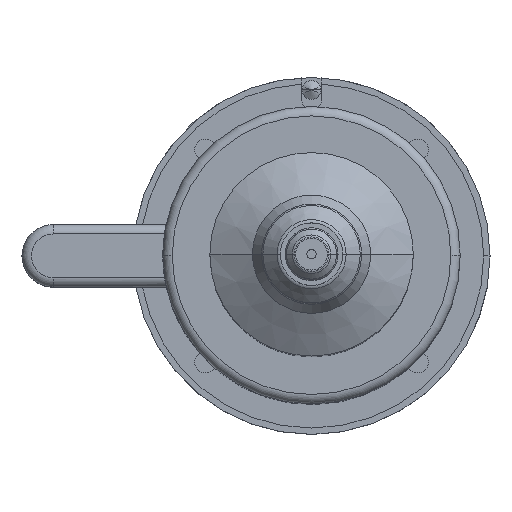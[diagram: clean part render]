
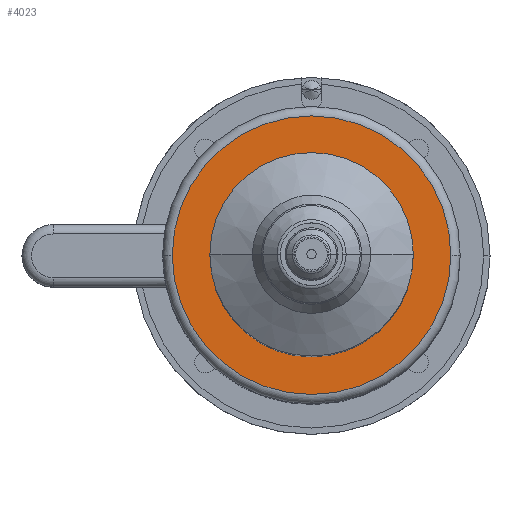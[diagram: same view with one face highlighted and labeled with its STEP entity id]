
A CAD part, top view. The second image highlights one B-rep face of the part: STEP entity #4023.
In plain terms, the highlighted planar face has unit normal (0, 0, 1).
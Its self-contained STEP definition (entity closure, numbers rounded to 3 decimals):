
#882 = FACE_BOUND ( 'NONE', #13757, .T. ) ;
#890 = FACE_OUTER_BOUND ( 'NONE', #13756, .T. ) ;
#1265 = VERTEX_POINT ( 'NONE', #14969 ) ;
#1373 = VERTEX_POINT ( 'NONE', #14647 ) ;
#1464 = VERTEX_POINT ( 'NONE', #14400 ) ;
#1467 = VERTEX_POINT ( 'NONE', #15019 ) ;
#2129 = AXIS2_PLACEMENT_3D ( 'NONE', #12780, #12775, #12774 ) ;
#2130 = AXIS2_PLACEMENT_3D ( 'NONE', #12753, #12749, #12745 ) ;
#2140 = AXIS2_PLACEMENT_3D ( 'NONE', #13043, #13042, #13040 ) ;
#2797 = AXIS2_PLACEMENT_3D ( 'NONE', #11184, #11163, #11144 ) ;
#3758 = EDGE_CURVE ( 'NONE', #1467, #1265, #18644, .T. ) ;
#3761 = EDGE_CURVE ( 'NONE', #1265, #1467, #18629, .T. ) ;
#3781 = EDGE_CURVE ( 'NONE', #1373, #1464, #18529, .T. ) ;
#4023 = ADVANCED_FACE ( 'NONE', ( #890, #882 ), #11205, .F. ) ;
#5574 = AXIS2_PLACEMENT_3D ( 'NONE', #17123, #17122, #17121 ) ;
#6261 = ORIENTED_EDGE ( 'NONE', *, *, #3758, .T. ) ;
#6262 = ORIENTED_EDGE ( 'NONE', *, *, #3761, .T. ) ;
#6266 = ORIENTED_EDGE ( 'NONE', *, *, #3781, .F. ) ;
#6271 = ORIENTED_EDGE ( 'NONE', *, *, #7147, .F. ) ;
#7147 = EDGE_CURVE ( 'NONE', #1464, #1373, #19699, .T. ) ;
#11144 = DIRECTION ( 'NONE',  ( -1., 0., 0. ) ) ;
#11163 = DIRECTION ( 'NONE',  ( 0., 0., -1. ) ) ;
#11184 = CARTESIAN_POINT ( 'NONE',  ( 0., 0., 161. ) ) ;
#11205 = PLANE ( 'NONE',  #2797 ) ;
#12745 = DIRECTION ( 'NONE',  ( -1., 0., 0. ) ) ;
#12749 = DIRECTION ( 'NONE',  ( 0., 0., -1. ) ) ;
#12753 = CARTESIAN_POINT ( 'NONE',  ( 0., 0., 161. ) ) ;
#12774 = DIRECTION ( 'NONE',  ( -1., 0., 0. ) ) ;
#12775 = DIRECTION ( 'NONE',  ( 0., 0., -1. ) ) ;
#12780 = CARTESIAN_POINT ( 'NONE',  ( 0., 0., 161. ) ) ;
#13040 = DIRECTION ( 'NONE',  ( -1., 0., 0. ) ) ;
#13042 = DIRECTION ( 'NONE',  ( 0., 0., -1. ) ) ;
#13043 = CARTESIAN_POINT ( 'NONE',  ( 0., 0., 161. ) ) ;
#13756 = EDGE_LOOP ( 'NONE', ( #6266, #6271 ) ) ;
#13757 = EDGE_LOOP ( 'NONE', ( #6261, #6262 ) ) ;
#14400 = CARTESIAN_POINT ( 'NONE',  ( 44.5, 0., 161. ) ) ;
#14647 = CARTESIAN_POINT ( 'NONE',  ( -44.5, 0., 161. ) ) ;
#14969 = CARTESIAN_POINT ( 'NONE',  ( -32.5, 0., 161. ) ) ;
#15019 = CARTESIAN_POINT ( 'NONE',  ( 32.5, 0., 161. ) ) ;
#17121 = DIRECTION ( 'NONE',  ( -1., 0., 0. ) ) ;
#17122 = DIRECTION ( 'NONE',  ( 0., 0., -1. ) ) ;
#17123 = CARTESIAN_POINT ( 'NONE',  ( 0., 0., 161. ) ) ;
#18529 = CIRCLE ( 'NONE', #2140, 44.5 ) ;
#18629 = CIRCLE ( 'NONE', #2130, 32.5 ) ;
#18644 = CIRCLE ( 'NONE', #2129, 32.5 ) ;
#19699 = CIRCLE ( 'NONE', #5574, 44.5 ) ;
